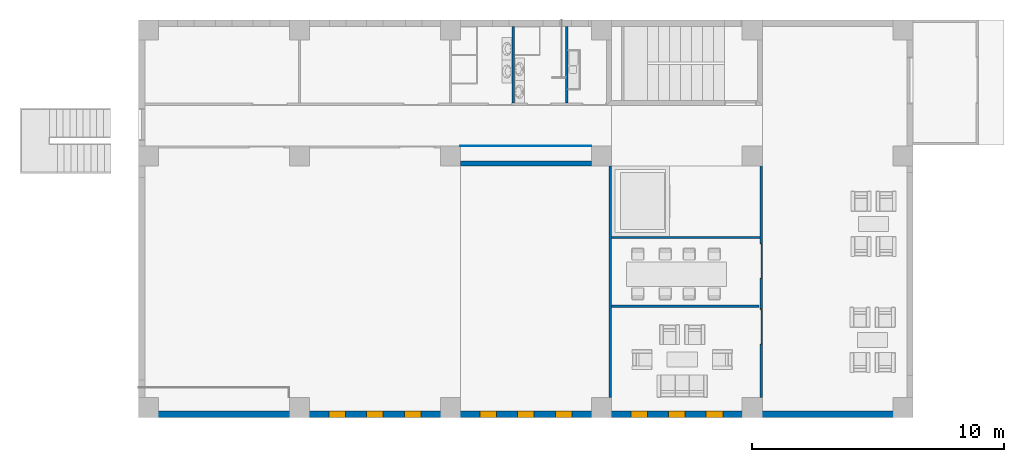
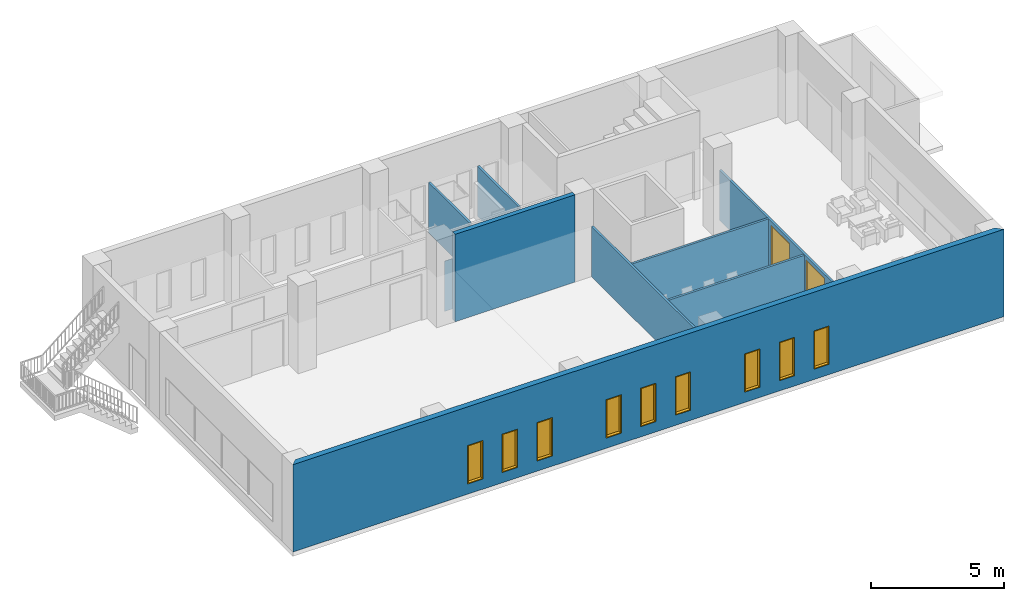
# One storey, part 3 of 17: 9 walls, 9 windows, 2 doors, 11 openings.
"""IFC2X3 building model written with IfcOpenShell, lengths in millimetres."""

from ifc_helpers import new_model, entity, si_unit, converted_unit, direction, frame, origin_with_axes, origin_2d_with_axis, place, context, project, spatial, polyline, rectangle, outline, extrude, open_shell, surface_model, source, transform, mapped, material, layer, layer_set, layer_usage, type_object, element, fill, save


model = new_model("IFC2X3")

# Units and contexts
model_context = context("Model", 3, precision=1e-05, world=origin_with_axes(), true_north=direction((0.0, 1.0)))
ifc_project = project(units=[si_unit("LENGTHUNIT", "METRE", prefix="MILLI"), si_unit("AREAUNIT", "SQUARE_METRE"), si_unit("VOLUMEUNIT", "CUBIC_METRE"), converted_unit("PLANEANGLEUNIT", "DEGREE", entity("IfcPlaneAngleMeasure", 0.017453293), si_unit("PLANEANGLEUNIT", "RADIAN"), dimensions=[0, 0, 0, 0, 0, 0, 0]), si_unit("SOLIDANGLEUNIT", "STERADIAN"), si_unit("MASSUNIT", "GRAM"), si_unit("TIMEUNIT", "SECOND"), si_unit("THERMODYNAMICTEMPERATUREUNIT", "DEGREE_CELSIUS"), si_unit("LUMINOUSINTENSITYUNIT", "LUMEN")], contexts=[model_context])

# Site, building, storey
site_placement = place(None, origin_with_axes())
site = spatial("IfcSite", under=ifc_project, at=site_placement, Name="\x83T\x83C\x83g", CompositionType="ELEMENT")
building_placement = place(site_placement, origin_with_axes())
building = spatial("IfcBuilding", under=site, at=building_placement, Name="Daitec-Sample 201208", CompositionType="ELEMENT")
storey_placement = place(building_placement, origin_with_axes())
storey = spatial("IfcBuildingStorey", under=building, at=storey_placement, Name="1F", CompositionType="ELEMENT", Elevation=0.0)

# Wall, openings, windows
ifc_material_1 = material(Name="\x83R\x83\x93\x83N\x83\x8a\x81[\x83g-\x8d\\\x91¢2")
ifc_layer_1 = layer(ifc_material_1, 250.0, ventilated="UNKNOWN")
ifc_layer_set_1 = layer_set([ifc_layer_1], Name="\x83R\x83\x93\x83N\x83\x8a\x81[\x83g-\x8d\\\x91¢2 250")
ifc_layer_usage_1 = layer_usage(ifc_layer_set_1, "AXIS2", "POSITIVE", 0.0)
wall_type_1 = type_object("IfcWallType", Name="\x83R\x83\x93\x83N\x83\x8a\x81[\x83g-\x8d\\\x91¢2 250", PredefinedType="NOTDEFINED")
wall_1_placement = place(storey_placement, frame((6100.0, 8000.0, 0.0), z_axis=(0.0, 0.0, 1.0), x_axis=(1.0, 0.0, 0.0)))
wall_1 = element("IfcWallStandardCase", 1, at=wall_1_placement, inside=storey, type_object=wall_type_1, material=ifc_layer_usage_1, Name="W6", context=model_context, shape_type="SweptSolid", body=[
    extrude(outline(polyline([(0.0, 0.0), (30800.0, 0.0), (30550.0, 250.0), (250.0, 250.0), (0.0, 0.0)])), origin_with_axes(), (0.0, 0.0, 1.0), 4000.0),
])
opening_1_placement = place(wall_1_placement, frame((7901.9298, 0.0, 500.0), z_axis=(0.0, 0.0, 1.0), x_axis=(1.0, 0.0, 0.0)))
opening_1 = element("IfcOpeningElement", 2, at=opening_1_placement, cuts=wall_1, context=model_context, shape_type="SweptSolid", body=[
    extrude(rectangle(XDim=600.0, YDim=1700.0, at=origin_2d_with_axis()), frame((0.0, -1.0, 850.0), z_axis=(0.0, 1.0, 0.0), x_axis=(1.0, 0.0, 0.0)), (0.0, 0.0, 1.0), 252.0),
    extrude(rectangle(XDim=600.0, YDim=1700.0, at=origin_2d_with_axis()), frame((0.0, 1.0, 850.0), z_axis=(0.0, -1.0, 0.0), x_axis=(1.0, 0.0, 0.0)), (0.0, 0.0, 1.0), 252.0),
    extrude(rectangle(XDim=660.0, YDim=1760.0, at=origin_2d_with_axis()), frame((0.0, 126.0, 850.0), z_axis=(0.0, -1.0, 0.0), x_axis=(1.0, 0.0, 0.0)), (0.0, 0.0, 1.0), 252.0),
])
opening_2_placement = place(wall_1_placement, frame((9399.6597, 0.0, 500.0), z_axis=(0.0, 0.0, 1.0), x_axis=(1.0, 0.0, 0.0)))
opening_2 = element("IfcOpeningElement", 3, at=opening_2_placement, cuts=wall_1, context=model_context, shape_type="SweptSolid", body=[
    extrude(rectangle(XDim=600.0, YDim=1700.0, at=origin_2d_with_axis()), frame((0.0, 251.0, 850.0), z_axis=(0.0, -1.0, 0.0), x_axis=(1.0, 0.0, 0.0)), (0.0, 0.0, 1.0), 252.0),
    extrude(rectangle(XDim=600.0, YDim=1700.0, at=origin_2d_with_axis()), frame((0.0, 249.0, 850.0), z_axis=(0.0, 1.0, 0.0), x_axis=(1.0, 0.0, 0.0)), (0.0, 0.0, 1.0), 252.0),
    extrude(rectangle(XDim=660.0, YDim=1760.0, at=origin_2d_with_axis()), frame((0.0, 124.0, 850.0), z_axis=(0.0, 1.0, 0.0), x_axis=(1.0, 0.0, 0.0)), (0.0, 0.0, 1.0), 252.0),
])
opening_3_placement = place(wall_1_placement, frame((10907.186, 0.0, 500.0), z_axis=(0.0, 0.0, 1.0), x_axis=(1.0, 0.0, 0.0)))
opening_3 = element("IfcOpeningElement", 4, at=opening_3_placement, cuts=wall_1, context=model_context, shape_type="SweptSolid", body=[
    extrude(rectangle(XDim=600.0, YDim=1700.0, at=origin_2d_with_axis()), frame((0.0, -1.0, 850.0), z_axis=(0.0, 1.0, 0.0), x_axis=(1.0, 0.0, 0.0)), (0.0, 0.0, 1.0), 252.0),
    extrude(rectangle(XDim=600.0, YDim=1700.0, at=origin_2d_with_axis()), frame((0.0, 1.0, 850.0), z_axis=(0.0, -1.0, 0.0), x_axis=(1.0, 0.0, 0.0)), (0.0, 0.0, 1.0), 252.0),
    extrude(rectangle(XDim=660.0, YDim=1760.0, at=origin_2d_with_axis()), frame((0.0, 126.0, 850.0), z_axis=(0.0, -1.0, 0.0), x_axis=(1.0, 0.0, 0.0)), (0.0, 0.0, 1.0), 252.0),
])
opening_4_placement = place(wall_1_placement, frame((13897.963, 0.0, 500.0), z_axis=(0.0, 0.0, 1.0), x_axis=(1.0, 0.0, 0.0)))
opening_4 = element("IfcOpeningElement", 5, at=opening_4_placement, cuts=wall_1, context=model_context, shape_type="SweptSolid", body=[
    extrude(rectangle(XDim=600.0, YDim=1700.0, at=origin_2d_with_axis()), frame((0.0, -1.0, 850.0), z_axis=(0.0, 1.0, 0.0), x_axis=(1.0, 0.0, 0.0)), (0.0, 0.0, 1.0), 252.0),
    extrude(rectangle(XDim=600.0, YDim=1700.0, at=origin_2d_with_axis()), frame((0.0, 1.0, 850.0), z_axis=(0.0, -1.0, 0.0), x_axis=(1.0, 0.0, 0.0)), (0.0, 0.0, 1.0), 252.0),
    extrude(rectangle(XDim=660.0, YDim=1760.0, at=origin_2d_with_axis()), frame((0.0, 126.0, 850.0), z_axis=(0.0, -1.0, 0.0), x_axis=(1.0, 0.0, 0.0)), (0.0, 0.0, 1.0), 252.0),
])
opening_5_placement = place(wall_1_placement, frame((15395.738, 0.0, 500.0), z_axis=(0.0, 0.0, 1.0), x_axis=(1.0, 0.0, 0.0)))
opening_5 = element("IfcOpeningElement", 6, at=opening_5_placement, cuts=wall_1, context=model_context, shape_type="SweptSolid", body=[
    extrude(rectangle(XDim=600.0, YDim=1700.0, at=origin_2d_with_axis()), frame((0.0, -1.0, 850.0), z_axis=(0.0, 1.0, 0.0), x_axis=(1.0, 0.0, 0.0)), (0.0, 0.0, 1.0), 252.0),
    extrude(rectangle(XDim=600.0, YDim=1700.0, at=origin_2d_with_axis()), frame((0.0, 1.0, 850.0), z_axis=(0.0, -1.0, 0.0), x_axis=(1.0, 0.0, 0.0)), (0.0, 0.0, 1.0), 252.0),
    extrude(rectangle(XDim=660.0, YDim=1760.0, at=origin_2d_with_axis()), frame((0.0, 126.0, 850.0), z_axis=(0.0, -1.0, 0.0), x_axis=(1.0, 0.0, 0.0)), (0.0, 0.0, 1.0), 252.0),
])
opening_6_placement = place(wall_1_placement, frame((16903.823, 0.0, 500.0), z_axis=(0.0, 0.0, 1.0), x_axis=(1.0, 0.0, 0.0)))
opening_6 = element("IfcOpeningElement", 7, at=opening_6_placement, cuts=wall_1, context=model_context, shape_type="SweptSolid", body=[
    extrude(rectangle(XDim=600.0, YDim=1700.0, at=origin_2d_with_axis()), frame((0.0, -1.0, 850.0), z_axis=(0.0, 1.0, 0.0), x_axis=(1.0, 0.0, 0.0)), (0.0, 0.0, 1.0), 252.0),
    extrude(rectangle(XDim=600.0, YDim=1700.0, at=origin_2d_with_axis()), frame((0.0, 1.0, 850.0), z_axis=(0.0, -1.0, 0.0), x_axis=(1.0, 0.0, 0.0)), (0.0, 0.0, 1.0), 252.0),
    extrude(rectangle(XDim=660.0, YDim=1760.0, at=origin_2d_with_axis()), frame((0.0, 126.0, 850.0), z_axis=(0.0, -1.0, 0.0), x_axis=(1.0, 0.0, 0.0)), (0.0, 0.0, 1.0), 252.0),
])
opening_7_placement = place(wall_1_placement, frame((19901.783, 0.0, 500.0), z_axis=(0.0, 0.0, 1.0), x_axis=(1.0, 0.0, 0.0)))
opening_7 = element("IfcOpeningElement", 8, at=opening_7_placement, cuts=wall_1, context=model_context, shape_type="SweptSolid", body=[
    extrude(rectangle(XDim=600.0, YDim=1700.0, at=origin_2d_with_axis()), frame((0.0, -1.0, 850.0), z_axis=(0.0, 1.0, 0.0), x_axis=(1.0, 0.0, 0.0)), (0.0, 0.0, 1.0), 252.0),
    extrude(rectangle(XDim=600.0, YDim=1700.0, at=origin_2d_with_axis()), frame((0.0, 1.0, 850.0), z_axis=(0.0, -1.0, 0.0), x_axis=(1.0, 0.0, 0.0)), (0.0, 0.0, 1.0), 252.0),
    extrude(rectangle(XDim=660.0, YDim=1760.0, at=origin_2d_with_axis()), frame((0.0, 126.0, 850.0), z_axis=(0.0, -1.0, 0.0), x_axis=(1.0, 0.0, 0.0)), (0.0, 0.0, 1.0), 252.0),
])
opening_8_placement = place(wall_1_placement, frame((21404.615, 0.0, 500.0), z_axis=(0.0, 0.0, 1.0), x_axis=(1.0, 0.0, 0.0)))
opening_8 = element("IfcOpeningElement", 9, at=opening_8_placement, cuts=wall_1, context=model_context, shape_type="SweptSolid", body=[
    extrude(rectangle(XDim=600.0, YDim=1700.0, at=origin_2d_with_axis()), frame((0.0, -1.0, 850.0), z_axis=(0.0, 1.0, 0.0), x_axis=(1.0, 0.0, 0.0)), (0.0, 0.0, 1.0), 252.0),
    extrude(rectangle(XDim=600.0, YDim=1700.0, at=origin_2d_with_axis()), frame((0.0, 1.0, 850.0), z_axis=(0.0, -1.0, 0.0), x_axis=(1.0, 0.0, 0.0)), (0.0, 0.0, 1.0), 252.0),
    extrude(rectangle(XDim=660.0, YDim=1760.0, at=origin_2d_with_axis()), frame((0.0, 126.0, 850.0), z_axis=(0.0, -1.0, 0.0), x_axis=(1.0, 0.0, 0.0)), (0.0, 0.0, 1.0), 252.0),
])
opening_9_placement = place(wall_1_placement, frame((22900.017, 0.0, 500.0), z_axis=(0.0, 0.0, 1.0), x_axis=(1.0, 0.0, 0.0)))
opening_9 = element("IfcOpeningElement", 10, at=opening_9_placement, cuts=wall_1, context=model_context, shape_type="SweptSolid", body=[
    extrude(rectangle(XDim=600.0, YDim=1700.0, at=origin_2d_with_axis()), frame((0.0, 251.0, 850.0), z_axis=(0.0, -1.0, 0.0), x_axis=(1.0, 0.0, 0.0)), (0.0, 0.0, 1.0), 252.0),
    extrude(rectangle(XDim=600.0, YDim=1700.0, at=origin_2d_with_axis()), frame((0.0, 249.0, 850.0), z_axis=(0.0, 1.0, 0.0), x_axis=(1.0, 0.0, 0.0)), (0.0, 0.0, 1.0), 252.0),
    extrude(rectangle(XDim=660.0, YDim=1760.0, at=origin_2d_with_axis()), frame((0.0, 124.0, 850.0), z_axis=(0.0, 1.0, 0.0), x_axis=(1.0, 0.0, 0.0)), (0.0, 0.0, 1.0), 252.0),
])
ifc_material_2 = material(Name="\x94w\x8ci")
window_style = type_object("IfcWindowStyle", ConstructionType="NOTDEFINED", OperationType="NOTDEFINED", ParameterTakesPrecedence=False, Sizeable=False)
shared_shape_1 = source(origin_with_axes(), model_context, "Body", "SurfaceModel", [
    surface_model("IfcShellBasedSurfaceModel", [(300.0, 125.0, 0.0), (-300.0, 125.0, 0.0), (-300.0, 125.0, 1700.0), (300.0, 125.0, 1700.0), (260.0, 125.0, 40.0), (260.0, 125.0, 1660.0), (-260.0, 125.0, 1660.0), (-260.0, 125.0, 40.0)], [open_shell([[[0, 1, 2, 3], [4, 5, 6, 7]]])]),
    surface_model("IfcShellBasedSurfaceModel", [(260.0, 125.0, 40.0), (-260.0, 125.0, 40.0), (-260.0, 125.0, 1660.0), (260.0, 125.0, 1660.0)], [open_shell([[[0, 1, 2, 3]]])]),
    surface_model("IfcShellBasedSurfaceModel", [(330.0, 250.0, -30.0), (-330.0, 250.0, -30.0), (-330.0, 250.0, 1730.0), (330.0, 250.0, 1730.0), (300.0, 250.0, 0.0), (300.0, 250.0, 1700.0), (-300.0, 250.0, 1700.0), (-300.0, 250.0, 0.0)], [open_shell([[[0, 1, 2, 3], [4, 5, 6, 7]]])]),
    surface_model("IfcShellBasedSurfaceModel", [(330.0, 0.0, -30.0), (-330.0, 0.0, -30.0), (-330.0, 0.0, 1730.0), (330.0, 0.0, 1730.0), (300.0, 0.0, 0.0), (300.0, 0.0, 1700.0), (-300.0, 0.0, 1700.0), (-300.0, 0.0, 0.0)], [open_shell([[[0, 1, 2, 3], [4, 5, 6, 7]]])]),
    surface_model("IfcShellBasedSurfaceModel", [(330.0, 250.0, -30.0), (330.0, 0.0, -30.0), (-330.0, 0.0, -30.0), (-330.0, 250.0, -30.0), (330.0, 250.0, 1730.0), (330.0, 0.0, 1730.0), (-330.0, 0.0, 1730.0), (-330.0, 250.0, 1730.0)], [open_shell([[[0, 1, 2, 3]], [[4, 5, 1, 0]], [[3, 2, 6, 7]], [[7, 6, 5, 4]]])]),
    surface_model("IfcShellBasedSurfaceModel", [(300.0, 250.0, 0.0), (300.0, 0.0, 0.0), (-300.0, 0.0, 0.0), (-300.0, 250.0, 0.0), (300.0, 250.0, 1700.0), (300.0, 0.0, 1700.0), (-300.0, 0.0, 1700.0), (-300.0, 250.0, 1700.0)], [open_shell([[[0, 1, 2, 3]], [[4, 5, 1, 0]], [[3, 2, 6, 7]], [[7, 6, 5, 4]]])]),
])
window_1_placement = place(opening_1_placement, frame((300.0, 0.0, 0.0), z_axis=(0.0, 0.0, 1.0), x_axis=(-1.0, 0.0, 0.0)))
window_1 = element("IfcWindow", 11, at=window_1_placement, inside=storey, type_object=window_style, material=ifc_material_2, Name="AW1", OverallHeight=1700.0, OverallWidth=600.0, context=model_context, shape_type="MappedRepresentation", body=[
    mapped(shared_shape_1, transform((300.0, -250.0, 0.0))),
])
fill(opening_1, window_1)
window_2_placement = place(opening_3_placement, frame((300.0, 0.0, 0.0), z_axis=(0.0, 0.0, 1.0), x_axis=(-1.0, 0.0, 0.0)))
window_2 = element("IfcWindow", 12, at=window_2_placement, inside=storey, type_object=window_style, material=ifc_material_2, Name="AW3", OverallHeight=1700.0, OverallWidth=600.0, context=model_context, shape_type="MappedRepresentation", body=[
    mapped(shared_shape_1, transform((300.0, -250.0, 0.0))),
])
fill(opening_3, window_2)
window_3_placement = place(opening_8_placement, frame((300.0, 0.0, 0.0), z_axis=(0.0, 0.0, 1.0), x_axis=(-1.0, 0.0, 0.0)))
window_3 = element("IfcWindow", 13, at=window_3_placement, inside=storey, type_object=window_style, material=ifc_material_2, Name="AW1", OverallHeight=1700.0, OverallWidth=600.0, context=model_context, shape_type="MappedRepresentation", body=[
    mapped(shared_shape_1, transform((300.0, -250.0, 0.0))),
])
fill(opening_8, window_3)
shared_shape_2 = source(origin_with_axes(), model_context, "Body", "SurfaceModel", [
    surface_model("IfcShellBasedSurfaceModel", [(300.0, -125.0, 0.0), (-300.0, -125.0, 0.0), (-300.0, -125.0, 1700.0), (300.0, -125.0, 1700.0), (260.0, -125.0, 40.0), (260.0, -125.0, 1660.0), (-260.0, -125.0, 1660.0), (-260.0, -125.0, 40.0)], [open_shell([[[0, 1, 2, 3], [4, 5, 6, 7]]])]),
    surface_model("IfcShellBasedSurfaceModel", [(260.0, -125.0, 40.0), (-260.0, -125.0, 40.0), (-260.0, -125.0, 1660.0), (260.0, -125.0, 1660.0)], [open_shell([[[0, 1, 2, 3]]])]),
    surface_model("IfcShellBasedSurfaceModel", [(330.0, 0.0, -30.0), (-330.0, 0.0, -30.0), (-330.0, 0.0, 1730.0), (330.0, 0.0, 1730.0), (300.0, 0.0, 0.0), (300.0, 0.0, 1700.0), (-300.0, 0.0, 1700.0), (-300.0, 0.0, 0.0)], [open_shell([[[0, 1, 2, 3], [4, 5, 6, 7]]])]),
    surface_model("IfcShellBasedSurfaceModel", [(330.0, -250.0, -30.0), (-330.0, -250.0, -30.0), (-330.0, -250.0, 1730.0), (330.0, -250.0, 1730.0), (300.0, -250.0, 0.0), (300.0, -250.0, 1700.0), (-300.0, -250.0, 1700.0), (-300.0, -250.0, 0.0)], [open_shell([[[0, 1, 2, 3], [4, 5, 6, 7]]])]),
    surface_model("IfcShellBasedSurfaceModel", [(330.0, 0.0, -30.0), (330.0, -250.0, -30.0), (-330.0, -250.0, -30.0), (-330.0, 0.0, -30.0), (330.0, 0.0, 1730.0), (330.0, -250.0, 1730.0), (-330.0, -250.0, 1730.0), (-330.0, 0.0, 1730.0)], [open_shell([[[0, 1, 2, 3]], [[4, 5, 1, 0]], [[3, 2, 6, 7]], [[7, 6, 5, 4]]])]),
    surface_model("IfcShellBasedSurfaceModel", [(300.0, 0.0, 0.0), (300.0, -250.0, 0.0), (-300.0, -250.0, 0.0), (-300.0, 0.0, 0.0), (300.0, 0.0, 1700.0), (300.0, -250.0, 1700.0), (-300.0, -250.0, 1700.0), (-300.0, 0.0, 1700.0)], [open_shell([[[0, 1, 2, 3]], [[4, 5, 1, 0]], [[3, 2, 6, 7]], [[7, 6, 5, 4]]])]),
])
window_4_placement = place(opening_2_placement, frame((300.0, 0.0, 0.0), z_axis=(0.0, 0.0, 1.0), x_axis=(-1.0, 0.0, 0.0)))
window_4 = element("IfcWindow", 14, at=window_4_placement, inside=storey, type_object=window_style, material=ifc_material_2, Name="AW2", OverallHeight=1700.0, OverallWidth=600.0, context=model_context, shape_type="MappedRepresentation", body=[
    mapped(shared_shape_2, transform((300.0, -250.0, 0.0), x_axis=(-1.0, 0.0, 0.0), y_axis=(0.0, -1.0, 0.0), z_axis=(0.0, 0.0, 1.0))),
])
fill(opening_2, window_4)
window_5_placement = place(opening_9_placement, frame((300.0, 0.0, 0.0), z_axis=(0.0, 0.0, 1.0), x_axis=(-1.0, 0.0, 0.0)))
window_5 = element("IfcWindow", 15, at=window_5_placement, inside=storey, type_object=window_style, material=ifc_material_2, Name="AW2", OverallHeight=1700.0, OverallWidth=600.0, context=model_context, shape_type="MappedRepresentation", body=[
    mapped(shared_shape_2, transform((300.0, -250.0, 0.0), x_axis=(-1.0, 0.0, 0.0), y_axis=(0.0, -1.0, 0.0), z_axis=(0.0, 0.0, 1.0))),
])
fill(opening_9, window_5)
shared_shape_3 = source(origin_with_axes(), model_context, "Body", "SurfaceModel", [
    surface_model("IfcShellBasedSurfaceModel", [(300.0, -125.0, 0.0), (-300.0, -125.0, 0.0), (-300.0, -125.0, 1700.0), (300.0, -125.0, 1700.0), (260.0, -125.0, 40.0), (260.0, -125.0, 1660.0), (-260.0, -125.0, 1660.0), (-260.0, -125.0, 40.0)], [open_shell([[[0, 1, 2, 3], [4, 5, 6, 7]]])]),
    surface_model("IfcShellBasedSurfaceModel", [(260.0, -125.0, 40.0), (-260.0, -125.0, 40.0), (-260.0, -125.0, 1660.0), (260.0, -125.0, 1660.0)], [open_shell([[[0, 1, 2, 3]]])]),
    surface_model("IfcShellBasedSurfaceModel", [(330.0, 0.0, -30.0), (-330.0, 0.0, -30.0), (-330.0, 0.0, 1730.0), (330.0, 0.0, 1730.0), (300.0, 0.0, 0.0), (300.0, 0.0, 1700.0), (-300.0, 0.0, 1700.0), (-300.0, 0.0, 0.0)], [open_shell([[[0, 1, 2, 3], [4, 5, 6, 7]]])]),
    surface_model("IfcShellBasedSurfaceModel", [(330.0, -250.0, -30.0), (-330.0, -250.0, -30.0), (-330.0, -250.0, 1730.0), (330.0, -250.0, 1730.0), (300.0, -250.0, 0.0), (300.0, -250.0, 1700.0), (-300.0, -250.0, 1700.0), (-300.0, -250.0, 0.0)], [open_shell([[[0, 1, 2, 3], [4, 5, 6, 7]]])]),
    surface_model("IfcShellBasedSurfaceModel", [(330.0, 0.0, -30.0), (330.0, -250.0, -30.0), (-330.0, -250.0, -30.0), (-330.0, 0.0, -30.0), (330.0, 0.0, 1730.0), (330.0, -250.0, 1730.0), (-330.0, -250.0, 1730.0), (-330.0, 0.0, 1730.0)], [open_shell([[[0, 1, 2, 3]], [[4, 5, 1, 0]], [[3, 2, 6, 7]], [[7, 6, 5, 4]]])]),
    surface_model("IfcShellBasedSurfaceModel", [(300.0, 0.0, 0.0), (300.0, -250.0, 0.0), (-300.0, -250.0, 0.0), (-300.0, 0.0, 0.0), (300.0, 0.0, 1700.0), (300.0, -250.0, 1700.0), (-300.0, -250.0, 1700.0), (-300.0, 0.0, 1700.0)], [open_shell([[[0, 1, 2, 3]], [[4, 5, 1, 0]], [[3, 2, 6, 7]], [[7, 6, 5, 4]]])]),
])
window_6_placement = place(opening_4_placement, frame((-300.0, 0.0, 0.0), z_axis=(0.0, 0.0, 1.0), x_axis=(1.0, 0.0, 0.0)))
window_6 = element("IfcWindow", 16, at=window_6_placement, inside=storey, type_object=window_style, material=ifc_material_2, Name="AW4", OverallHeight=1700.0, OverallWidth=600.0, context=model_context, shape_type="MappedRepresentation", body=[
    mapped(shared_shape_3, transform((300.0, 0.0, 0.0), x_axis=(-1.0, 0.0, 0.0), y_axis=(0.0, -1.0, 0.0), z_axis=(0.0, 0.0, 1.0))),
])
fill(opening_4, window_6)
window_7_placement = place(opening_5_placement, frame((-300.0, 0.0, 0.0), z_axis=(0.0, 0.0, 1.0), x_axis=(1.0, 0.0, 0.0)))
window_7 = element("IfcWindow", 17, at=window_7_placement, inside=storey, type_object=window_style, material=ifc_material_2, Name="AW5", OverallHeight=1700.0, OverallWidth=600.0, context=model_context, shape_type="MappedRepresentation", body=[
    mapped(shared_shape_3, transform((300.0, 0.0, 0.0), x_axis=(-1.0, 0.0, 0.0), y_axis=(0.0, -1.0, 0.0), z_axis=(0.0, 0.0, 1.0))),
])
fill(opening_5, window_7)
window_8_placement = place(opening_6_placement, frame((-300.0, 0.0, 0.0), z_axis=(0.0, 0.0, 1.0), x_axis=(1.0, 0.0, 0.0)))
window_8 = element("IfcWindow", 18, at=window_8_placement, inside=storey, type_object=window_style, material=ifc_material_2, Name="AW6", OverallHeight=1700.0, OverallWidth=600.0, context=model_context, shape_type="MappedRepresentation", body=[
    mapped(shared_shape_3, transform((300.0, 0.0, 0.0), x_axis=(-1.0, 0.0, 0.0), y_axis=(0.0, -1.0, 0.0), z_axis=(0.0, 0.0, 1.0))),
])
fill(opening_6, window_8)
window_9_placement = place(opening_7_placement, frame((-300.0, 0.0, 0.0), z_axis=(0.0, 0.0, 1.0), x_axis=(1.0, 0.0, 0.0)))
window_9 = element("IfcWindow", 19, at=window_9_placement, inside=storey, type_object=window_style, material=ifc_material_2, Name="AW0", OverallHeight=1700.0, OverallWidth=600.0, context=model_context, shape_type="MappedRepresentation", body=[
    mapped(shared_shape_3, transform((300.0, 0.0, 0.0), x_axis=(-1.0, 0.0, 0.0), y_axis=(0.0, -1.0, 0.0), z_axis=(0.0, 0.0, 1.0))),
])
fill(opening_7, window_9)

# Wall
ifc_material_3 = material(Name="\x83v\x83\x89\x83X\x83^\x81[\x83{\x81[\x83h")
ifc_layer_2 = layer(ifc_material_3, 15.0, ventilated="UNKNOWN")
ifc_material_4 = material(Name="00_LGS")
ifc_layer_3 = layer(ifc_material_4, 65.0, ventilated="UNKNOWN")
ifc_layer_4 = layer(ifc_material_3, 15.0, ventilated="UNKNOWN")
ifc_layer_set_2 = layer_set([ifc_layer_2, ifc_layer_3, ifc_layer_4])
ifc_layer_usage_2 = layer_usage(ifc_layer_set_2, "AXIS2", "NEGATIVE", 47.5)
wall_type_2 = type_object("IfcWallType", PredefinedType="NOTDEFINED")
wall_2_placement = place(storey_placement, frame((20997.571, 23800.0, 0.0), z_axis=(0.0, 0.0, 1.0), x_axis=(0.0, -1.0, 0.0)))
element("IfcWallStandardCase", 20, at=wall_2_placement, inside=storey, type_object=wall_type_2, material=ifc_layer_usage_2, Name="W6", context=model_context, shape_type="SweptSolid", body=[
    extrude(outline(polyline([(250.0, -47.5), (3304.8739, -47.5), (3304.8739, 47.5), (250.0, 47.5), (250.0, -47.5)])), origin_with_axes(), (0.0, 0.0, 1.0), 2300.0),
])

# Wall, openings, doors
ifc_layer_usage_3 = layer_usage(ifc_layer_set_2, "AXIS2", "NEGATIVE", 0.0)
wall_3_placement = place(storey_placement, frame((30900.0, 18800.0, 0.0), z_axis=(0.0, 0.0, 1.0), x_axis=(0.0, -1.0, 0.0)))
wall_3 = element("IfcWallStandardCase", 21, at=wall_3_placement, inside=storey, type_object=wall_type_2, material=ifc_layer_usage_3, Name="W1", context=model_context, shape_type="SweptSolid", body=[
    extrude(outline(polyline([(0.0, -95.0), (10000.0, -95.0), (10000.0, 0.0), (0.0, 0.0), (0.0, -95.0)])), origin_with_axes(), (0.0, 0.0, 1.0), 2300.0),
])
opening_10_placement = place(wall_3_placement, frame((4581.168, 0.0, 0.0), z_axis=(0.0, 0.0, 1.0), x_axis=(1.0, 0.0, 0.0)))
opening_10 = element("IfcOpeningElement", 22, at=opening_10_placement, cuts=wall_3, context=model_context, shape_type="SweptSolid", body=[
    extrude(rectangle(XDim=1410.0, YDim=2130.0, at=origin_2d_with_axis()), frame((0.0, -46.5, 1065.0), z_axis=(0.0, -1.0, 0.0), x_axis=(1.0, 0.0, 0.0)), (0.0, 0.0, 1.0), 97.0),
])
opening_11_placement = place(wall_3_placement, frame((7200.0, 0.0, 0.0), z_axis=(0.0, 0.0, 1.0), x_axis=(1.0, 0.0, 0.0)))
opening_11 = element("IfcOpeningElement", 23, at=opening_11_placement, cuts=wall_3, context=model_context, shape_type="SweptSolid", body=[
    extrude(rectangle(XDim=1410.0, YDim=2130.0, at=origin_2d_with_axis()), frame((0.0, -46.5, 1065.0), z_axis=(0.0, -1.0, 0.0), x_axis=(1.0, 0.0, 0.0)), (0.0, 0.0, 1.0), 97.0),
])
door_style = type_object("IfcDoorStyle", Name="\x90e\x8eq\x8aJ\x82«\x8cË_JX5", ConstructionType="NOTDEFINED", OperationType="NOTDEFINED", ParameterTakesPrecedence=False, Sizeable=False)
door_1_placement = place(opening_10_placement, frame((-675.0, 0.0, 0.0), z_axis=(0.0, 0.0, 1.0), x_axis=(1.0, 0.0, 0.0)))
door_1 = element("IfcDoor", 24, at=door_1_placement, inside=storey, type_object=door_style, material=ifc_material_2, Name="SD5", OverallHeight=2100.0, OverallWidth=1350.0, context=model_context, shape_type="SurfaceModel", body=[
    surface_model("IfcShellBasedSurfaceModel", [(900.0, -47.5, 0.0), (900.0, -47.5, 2100.0), (0.0, -47.5, 2100.0), (0.0, -47.5, 0.0)], [open_shell([[[0, 1, 2, 3]]])]),
    surface_model("IfcShellBasedSurfaceModel", [(900.0, -47.5, 0.0), (1350.0, -47.5, 0.0), (1350.0, -47.5, 2100.0), (900.0, -47.5, 2100.0)], [open_shell([[[0, 1, 2, 3]]])]),
    surface_model("IfcShellBasedSurfaceModel", [(1380.0, -95.0, 0.0), (1380.0, -95.0, 2130.0), (-30.0, -95.0, 2130.0), (-30.0, -95.0, 0.0), (0.0, -95.0, 0.0), (0.0, -95.0, 2100.0), (1350.0, -95.0, 2100.0), (1350.0, -95.0, 0.0)], [open_shell([[[0, 1, 2, 3, 4, 5, 6, 7]]])]),
    surface_model("IfcShellBasedSurfaceModel", [(1380.0, 0.0, 0.0), (1380.0, 0.0, 2130.0), (-30.0, 0.0, 2130.0), (-30.0, 0.0, 0.0), (0.0, 0.0, 0.0), (0.0, 0.0, 2100.0), (1350.0, 0.0, 2100.0), (1350.0, 0.0, 0.0)], [open_shell([[[0, 1, 2, 3, 4, 5, 6, 7]]])]),
    surface_model("IfcShellBasedSurfaceModel", [(1350.0, -95.0, 0.0), (1350.0, -95.0, 2100.0), (1350.0, 0.0, 2100.0), (1350.0, 0.0, 0.0), (0.0, -95.0, 2100.0), (0.0, 0.0, 2100.0), (1380.0, -95.0, 0.0), (1380.0, 0.0, 0.0), (0.0, -95.0, 0.0), (0.0, 0.0, 0.0), (1380.0, -95.0, 2130.0), (1380.0, 0.0, 2130.0), (-30.0, -95.0, 0.0), (-30.0, 0.0, 0.0), (-30.0, -95.0, 2130.0), (-30.0, 0.0, 2130.0)], [open_shell([[[0, 1, 2, 3]], [[1, 4, 5, 2]], [[6, 0, 3, 7]], [[4, 8, 9, 5]], [[10, 6, 7, 11]], [[8, 12, 13, 9]], [[14, 10, 11, 15]], [[12, 14, 15, 13]]])]),
])
fill(opening_10, door_1)
door_2_placement = place(opening_11_placement, frame((-675.0, 0.0, 0.0), z_axis=(0.0, 0.0, 1.0), x_axis=(1.0, 0.0, 0.0)))
door_2 = element("IfcDoor", 25, at=door_2_placement, inside=storey, type_object=door_style, material=ifc_material_2, Name="SD6", OverallHeight=2100.0, OverallWidth=1350.0, context=model_context, shape_type="SurfaceModel", body=[
    surface_model("IfcShellBasedSurfaceModel", [(900.0, -47.5, 0.0), (900.0, -47.5, 2100.0), (0.0, -47.5, 2100.0), (0.0, -47.5, 0.0)], [open_shell([[[0, 1, 2, 3]]])]),
    surface_model("IfcShellBasedSurfaceModel", [(900.0, -47.5, 0.0), (1350.0, -47.5, 0.0), (1350.0, -47.5, 2100.0), (900.0, -47.5, 2100.0)], [open_shell([[[0, 1, 2, 3]]])]),
    surface_model("IfcShellBasedSurfaceModel", [(1380.0, -95.0, 0.0), (1380.0, -95.0, 2130.0), (-30.0, -95.0, 2130.0), (-30.0, -95.0, 0.0), (0.0, -95.0, 0.0), (0.0, -95.0, 2100.0), (1350.0, -95.0, 2100.0), (1350.0, -95.0, 0.0)], [open_shell([[[0, 1, 2, 3, 4, 5, 6, 7]]])]),
    surface_model("IfcShellBasedSurfaceModel", [(1380.0, 0.0, 0.0), (1380.0, 0.0, 2130.0), (-30.0, 0.0, 2130.0), (-30.0, 0.0, 0.0), (0.0, 0.0, 0.0), (0.0, 0.0, 2100.0), (1350.0, 0.0, 2100.0), (1350.0, 0.0, 0.0)], [open_shell([[[0, 1, 2, 3, 4, 5, 6, 7]]])]),
    surface_model("IfcShellBasedSurfaceModel", [(1350.0, -95.0, 0.0), (1350.0, -95.0, 2100.0), (1350.0, 0.0, 2100.0), (1350.0, 0.0, 0.0), (0.0, -95.0, 2100.0), (0.0, 0.0, 2100.0), (1380.0, -95.0, 0.0), (1380.0, 0.0, 0.0), (0.0, -95.0, 0.0), (0.0, 0.0, 0.0), (1380.0, -95.0, 2130.0), (1380.0, 0.0, 2130.0), (-30.0, -95.0, 0.0), (-30.0, 0.0, 0.0), (-30.0, -95.0, 2130.0), (-30.0, 0.0, 2130.0)], [open_shell([[[0, 1, 2, 3]], [[1, 4, 5, 2]], [[6, 0, 3, 7]], [[4, 8, 9, 5]], [[10, 6, 7, 11]], [[8, 12, 13, 9]], [[14, 10, 11, 15]], [[12, 14, 15, 13]]])]),
])
fill(opening_11, door_2)

# Walls
ifc_layer_usage_4 = layer_usage(ifc_layer_set_2, "AXIS2", "NEGATIVE", 0.0)
wall_4_placement = place(storey_placement, frame((24900.0, 18000.0, 0.0), z_axis=(0.0, 0.0, 1.0), x_axis=(0.0, -1.0, 0.0)))
element("IfcWallStandardCase", 26, at=wall_4_placement, inside=storey, type_object=wall_type_2, material=ifc_layer_usage_4, Name="W2", context=model_context, shape_type="SweptSolid", body=[
    extrude(outline(polyline([(0.0, -95.0), (9200.0, -95.0), (9200.0, 0.0), (0.0, 0.0), (0.0, -95.0)])), origin_with_axes(), (0.0, 0.0, 1.0), 2300.0),
])
ifc_layer_usage_5 = layer_usage(ifc_layer_set_2, "AXIS2", "NEGATIVE", 0.0)
wall_5_placement = place(storey_placement, frame((24900.0, 15200.0, 0.0), z_axis=(0.0, 0.0, 1.0), x_axis=(1.0, 0.0, 0.0)))
element("IfcWallStandardCase", 27, at=wall_5_placement, inside=storey, type_object=wall_type_2, material=ifc_layer_usage_5, Name="W8", context=model_context, shape_type="SweptSolid", body=[
    extrude(outline(polyline([(0.0, -95.0), (5905.0, -95.0), (5905.0, 0.0), (0.0, 0.0), (0.0, -95.0)])), origin_with_axes(), (0.0, 0.0, 1.0), 2300.0),
])
ifc_layer_usage_6 = layer_usage(ifc_layer_set_2, "AXIS2", "NEGATIVE", 0.0)
wall_6_placement = place(storey_placement, frame((24900.0, 12462.204, 0.0), z_axis=(0.0, 0.0, 1.0), x_axis=(1.0, 0.0, 0.0)))
element("IfcWallStandardCase", 28, at=wall_6_placement, inside=storey, type_object=wall_type_2, material=ifc_layer_usage_6, Name="W9", context=model_context, shape_type="SweptSolid", body=[
    extrude(outline(polyline([(0.0, -95.0), (5875.0, -95.0), (5875.0, 0.0), (0.0, 0.0), (0.0, -95.0)])), origin_with_axes(), (0.0, 0.0, 1.0), 2300.0),
])
ifc_layer_usage_7 = layer_usage(ifc_layer_set_2, "AXIS2", "NEGATIVE", 47.5)
wall_7_placement = place(storey_placement, frame((23123.718, 23800.0, 0.0), z_axis=(0.0, 0.0, 1.0), x_axis=(0.0, -1.0, 0.0)))
element("IfcWallStandardCase", 29, at=wall_7_placement, inside=storey, type_object=wall_type_2, material=ifc_layer_usage_7, Name="W7", context=model_context, shape_type="SweptSolid", body=[
    extrude(outline(polyline([(250.0, -47.5), (3304.8739, -47.5), (3304.8739, 47.5), (250.0, 47.5), (250.0, -47.5)])), origin_with_axes(), (0.0, 0.0, 1.0), 2300.0),
])
ifc_material_5 = material(Name="\x83X\x83`\x81[\x83\x8b")
ifc_layer_5 = layer(ifc_material_5, 20.0, ventilated="UNKNOWN")
ifc_layer_set_3 = layer_set([ifc_layer_5], Name="\x83X\x83`\x81[\x83\x8b 20")
ifc_layer_usage_8 = layer_usage(ifc_layer_set_3, "AXIS2", "NEGATIVE", 0.0)
wall_type_3 = type_object("IfcWallType", Name="\x83X\x83`\x81[\x83\x8b 20", PredefinedType="NOTDEFINED")
wall_8_placement = place(storey_placement, frame((18900.0, 18800.0, 0.0), z_axis=(0.0, 0.0, 1.0), x_axis=(1.0, 0.0, 0.0)))
element("IfcWallStandardCase", 30, at=wall_8_placement, inside=storey, type_object=wall_type_3, material=ifc_layer_usage_8, Name="W6", context=model_context, shape_type="SweptSolid", body=[
    extrude(outline(polyline([(0.0, -20.0), (5200.0, -20.0), (5200.0, 0.0), (0.0, 0.0), (0.0, -20.0)])), origin_with_axes(), (0.0, 0.0, 1.0), 2300.0),
])
ifc_layer_6 = layer(ifc_material_1, 200.0, ventilated="UNKNOWN")
ifc_layer_set_4 = layer_set([ifc_layer_6], Name="\x83R\x83\x93\x83N\x83\x8a\x81[\x83g-\x8d\\\x91¢2 200")
ifc_layer_usage_9 = layer_usage(ifc_layer_set_4, "AXIS2", "POSITIVE", 0.0)
wall_type_4 = type_object("IfcWallType", Name="\x83R\x83\x93\x83N\x83\x8a\x81[\x83g-\x8d\\\x91¢2 200", PredefinedType="NOTDEFINED")
wall_9_placement = place(storey_placement, frame((18900.0, 18000.0, 0.0), z_axis=(0.0, 0.0, 1.0), x_axis=(1.0, 0.0, 0.0)))
element("IfcWallStandardCase", 31, at=wall_9_placement, inside=storey, type_object=wall_type_4, material=ifc_layer_usage_9, Name="W5", context=model_context, shape_type="SweptSolid", body=[
    extrude(outline(polyline([(0.0, 0.0), (5200.0, 0.0), (5200.0, 200.0), (0.0, 200.0), (0.0, 0.0)])), origin_with_axes(), (0.0, 0.0, 1.0), 4000.0),
])

save(model, "model.ifc")
